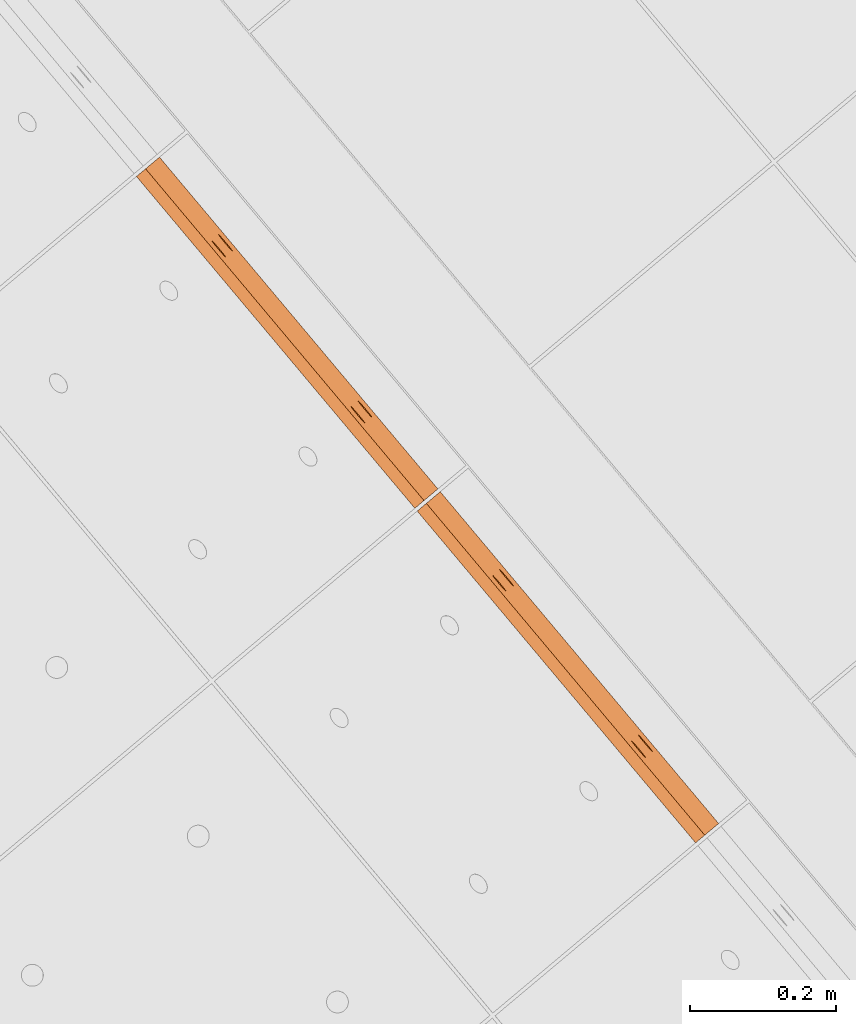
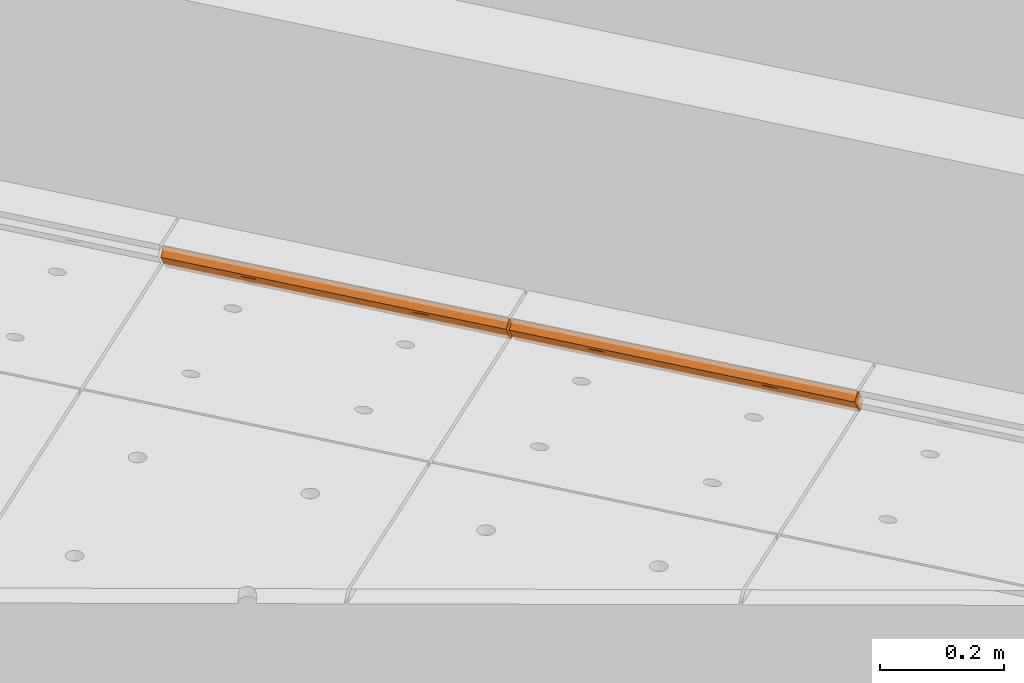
# One storey, part 210 of 338: 2 proxies, 1 element without a shape of its own.
"""IFC2X3 building model written with IfcOpenShell, lengths in millimetres."""

import ifcopenshell
import ifcopenshell.guid

model = None  # the IFC model being written
_history = None  # IfcOwnerHistory: only IFC2X3 demands one
_inside = {}  # id of a spatial element -> (the spatial element, [elements in it])
_under = {}  # id of a project, library or spatial element -> (it, [spatial elements below it])
_declared = {}  # id of a project -> (the project, [libraries it declares])
_typed = {}  # id of a type object -> (the type object, [elements of that type])
_made_of = {}  # id of a material, layer set ... -> (it, [elements and type objects made of it])


def new_model(schema):
    """Start an empty IFC model of exactly this schema.

    Asked for "IFC4X3", IfcOpenShell would pick the latest addendum, in which some entities
    have other attributes; the version numbers below select the first issue.
    IFC2X3 requires an IfcOwnerHistory on every rooted entity: one is made here for all.
    """
    global model, _history
    if schema == "IFC4X3":
        model = ifcopenshell.file(schema_version=(4, 3, 0, 0))
    else:
        model = ifcopenshell.file(schema=schema)
    _inside.clear()
    _under.clear()
    _declared.clear()
    _typed.clear()
    _made_of.clear()
    _history = None
    if model.schema == "IFC2X3":
        org = make("IfcOrganization", Name="unknown")
        user = make(
            "IfcPersonAndOrganization",
            ThePerson=make("IfcPerson", FamilyName="unknown"),
            TheOrganization=org,
        )
        app = make(
            "IfcApplication",
            ApplicationDeveloper=org,
            Version="unknown",
            ApplicationFullName="unknown",
            ApplicationIdentifier="unknown",
        )
        _history = make(
            "IfcOwnerHistory",
            OwningUser=user,
            OwningApplication=app,
            ChangeAction="ADDED",
            CreationDate=0,
        )
    return model


def make(cls, **values):
    """One entity of the class cls with the attributes given. An attribute that is None is left unset."""
    return model.create_entity(
        cls, **{name: value for name, value in values.items() if value is not None}
    )


def entity(cls, *values):
    """Any entity or typed value of the class cls, its attributes in the order of the schema. None: left unset."""
    e = model.create_entity(cls)
    for i, value in enumerate(values):
        if value is not None:
            e[i] = value
    return e


def rooted(cls, **values):
    """An entity with a GlobalId (a new one), such as an element, a storey or a relation."""
    return make(cls, GlobalId=ifcopenshell.guid.new(), OwnerHistory=_history, **values)


def si_unit(unit_type, name, prefix=None):
    """IfcSIUnit, for example si_unit("LENGTHUNIT", "METRE", prefix="MILLI")."""
    return make("IfcSIUnit", UnitType=unit_type, Prefix=prefix, Name=name)


def converted_unit(unit_type, name, factor, base, dimensions=None, offset=None):
    """IfcConversionBasedUnit, such as the inch: factor (a typed value) times the base unit."""
    return make(
        "IfcConversionBasedUnit"
        if offset is None
        else "IfcConversionBasedUnitWithOffset",
        ConversionOffset=offset,
        Dimensions=None
        if dimensions is None
        else entity("IfcDimensionalExponents", *dimensions),
        UnitType=unit_type,
        Name=name,
        ConversionFactor=make(
            "IfcMeasureWithUnit", ValueComponent=factor, UnitComponent=base
        ),
    )


def derived_unit(unit_type, elements):
    """IfcDerivedUnit: a product of units, each with its exponent."""
    return make(
        "IfcDerivedUnit",
        Elements=[
            make("IfcDerivedUnitElement", Unit=unit, Exponent=power)
            for unit, power in elements
        ],
        UnitType=unit_type,
    )


def money_unit(currency):
    """IfcMonetaryUnit."""
    return make("IfcMonetaryUnit", Currency=currency)


def assignment(units):
    """IfcUnitAssignment: the units of a project."""
    return None if units is None else make("IfcUnitAssignment", Units=units)


def point(xyz):
    """IfcCartesianPoint."""
    return None if xyz is None else make("IfcCartesianPoint", Coordinates=xyz)


def direction(xyz):
    """IfcDirection."""
    return None if xyz is None else make("IfcDirection", DirectionRatios=xyz)


def frame(location, z_axis=None, x_axis=None):
    """IfcAxis2Placement3D, a coordinate frame: its origin and axes. An axis left out is left unset."""
    return make(
        "IfcAxis2Placement3D",
        Location=point(location),
        Axis=direction(z_axis),
        RefDirection=direction(x_axis),
    )


def origin_with_axes():
    """The frame at (0, 0, 0) with the z axis (0, 0, 1) and the x axis (1, 0, 0) written out."""
    return frame((0.0, 0.0, 0.0), z_axis=(0.0, 0.0, 1.0), x_axis=(1.0, 0.0, 0.0))


def place(relative_to, where):
    """IfcLocalPlacement: puts the frame where relative to a parent placement (None: the world)."""
    return make(
        "IfcLocalPlacement", PlacementRelTo=relative_to, RelativePlacement=where
    )


def context(
    kind, dimensions, precision=None, world=None, true_north=None, identifier=None
):
    """IfcGeometricRepresentationContext, for example the 3D "Model" context."""
    return make(
        "IfcGeometricRepresentationContext",
        ContextIdentifier=identifier,
        ContextType=kind,
        CoordinateSpaceDimension=dimensions,
        Precision=precision,
        WorldCoordinateSystem=world,
        TrueNorth=true_north,
    )


def subcontext(parent, identifier, kind, view, scale=None):
    """IfcGeometricRepresentationSubContext, for example "Body" below "Model"."""
    return make(
        "IfcGeometricRepresentationSubContext",
        ContextIdentifier=identifier,
        ContextType=kind,
        ParentContext=parent,
        TargetScale=scale,
        TargetView=view,
    )


def project(units=None, contexts=None):
    """IfcProject with its units and contexts."""
    return rooted(
        "IfcProject",
        Name="project",
        RepresentationContexts=contexts,
        UnitsInContext=assignment(units),
    )


def spatial(cls, under=None, at=None, **own):
    """A site, building, storey or space (cls), placed at a placement, below another one or the project."""
    s = rooted(cls, ObjectPlacement=at, **own)
    if under is not None:
        _under.setdefault(under.id(), (under, []))[1].append(s)
    return s


def faces_of(points, faces, orient=None, outer=None):
    """IfcFace entities. A face is a list of loops; a loop is a list of indices into points, from 0.

    orient and outer hold one flag for each loop. By default every Orientation is true, the
    first loop of a face is its IfcFaceOuterBound and the others are IfcFaceBound.
    """
    made = []
    for i, loops in enumerate(faces):
        bounds = []
        for j, loop in enumerate(loops):
            is_outer = j == 0 if outer is None else outer[i][j]
            bounds.append(
                make(
                    "IfcFaceOuterBound" if is_outer else "IfcFaceBound",
                    Bound=make("IfcPolyLoop", Polygon=[points[k] for k in loop]),
                    Orientation=True if orient is None else orient[i][j],
                )
            )
        made.append(make("IfcFace", Bounds=bounds))
    return made


def faceted_brep(points, faces, orient=None, outer=None, voids=None):
    """IfcFacetedBrep: a solid bounded by flat faces; with voids (closed shells), ...WithVoids."""
    shared = [point(p) for p in points]
    hull = make("IfcClosedShell", CfsFaces=faces_of(shared, faces, orient, outer))
    if voids is None:
        return make("IfcFacetedBrep", Outer=hull)
    return make(
        "IfcFacetedBrepWithVoids",
        Outer=hull,
        Voids=[
            make(cls, CfsFaces=faces_of(shared, fs, o, b)) for cls, fs, o, b in voids
        ],
    )


def shape(context_of_items, identifier, shape_type, items):
    """IfcShapeRepresentation: the items that make up one representation, for example the "Body"."""
    return make(
        "IfcShapeRepresentation",
        ContextOfItems=context_of_items,
        RepresentationIdentifier=identifier,
        RepresentationType=shape_type,
        Items=items,
    )


def source(mapping_origin, context_of_items, identifier, shape_type, items):
    """IfcRepresentationMap: a shape defined once, which mapped items show again and again."""
    return make(
        "IfcRepresentationMap",
        MappingOrigin=mapping_origin,
        MappedRepresentation=shape(context_of_items, identifier, shape_type, items),
    )


def transform(
    local_origin,
    x_axis=None,
    y_axis=None,
    z_axis=None,
    scale=None,
    scale2=None,
    scale3=None,
    uniform=True,
):
    """IfcCartesianTransformationOperator3D, or its non-uniform kind. x_axis, y_axis, z_axis: its Axis1, 2, 3."""
    if uniform:
        return make(
            "IfcCartesianTransformationOperator3D",
            Axis1=direction(x_axis),
            Axis2=direction(y_axis),
            LocalOrigin=point(local_origin),
            Scale=scale,
            Axis3=direction(z_axis),
        )
    return make(
        "IfcCartesianTransformationOperator3DnonUniform",
        Axis1=direction(x_axis),
        Axis2=direction(y_axis),
        LocalOrigin=point(local_origin),
        Scale=scale,
        Axis3=direction(z_axis),
        Scale2=scale2,
        Scale3=scale3,
    )


def mapped(mapping_source, mapping_target):
    """IfcMappedItem: shows the shape of a source again, moved by a transform."""
    return make(
        "IfcMappedItem", MappingSource=mapping_source, MappingTarget=mapping_target
    )


def material(Name=None, Category=None):
    """IfcMaterial."""
    return make("IfcMaterial", Name=Name, Category=Category)


def made_of(thing, what):
    """Note that an element or type object is made of a material, layer set ...; save() writes the relation."""
    if what is not None:
        _made_of.setdefault(what.id(), (what, []))[1].append(thing)
    return thing


def type_object(cls, material=None, **own):
    """A type object (cls), such as IfcWallType, which elements share."""
    return made_of(rooted(cls, **own), material)


def type_shapes(of_type, sources):
    """Give a type object the sources (RepresentationMaps) that its elements show as mapped items."""
    of_type.RepresentationMaps = sources


def element(
    cls,
    number,
    at=None,
    inside=None,
    cuts=None,
    type_object=None,
    material=None,
    context=None,
    identifier="Body",
    shape_type=None,
    held_by="IfcProductDefinitionShape",
    body=None,
    shapes=None,
    **own,
):
    """One element of the class cls, such as IfcWall. Its Tag is "e" and its number.

    at: its placement. inside: the storey or other place that contains it. cuts: it is an
    opening in that element (IfcRelVoidsElement). A single representation is given by context,
    identifier, shape_type and body (its items); several are given by shapes. held_by: the class
    of the entity that holds the representations. save() writes the other relations.
    """
    e = rooted(cls, Tag="e%d" % number, ObjectPlacement=at, **own)
    if body is not None:
        shapes = [shape(context, identifier, shape_type, body)]
    if shapes is not None:
        e.Representation = make(held_by, Representations=shapes)
    if inside is not None:
        _inside.setdefault(inside.id(), (inside, []))[1].append(e)
    if cuts is not None:
        rooted(
            "IfcRelVoidsElement", RelatingBuildingElement=cuts, RelatedOpeningElement=e
        )
    if type_object is not None:
        _typed.setdefault(type_object.id(), (type_object, []))[1].append(e)
    return made_of(e, material)


def aggregate(whole, parts):
    """IfcRelAggregates: a whole, such as a stair, and the parts it consists of."""
    return rooted("IfcRelAggregates", RelatingObject=whole, RelatedObjects=parts)


def save(model, path):
    """Write the relations noted so far, then the file.

    IfcRelAggregates (storeys below a building ...), IfcRelContainedInSpatialStructure (elements
    in a storey), IfcRelDefinesByType, IfcRelAssociatesMaterial and IfcRelDeclares: one each for
    every whole, place, type object, material and project.
    """
    for whole, parts in _under.values():
        aggregate(whole, parts)
    for where, things in _inside.values():
        rooted(
            "IfcRelContainedInSpatialStructure",
            RelatedElements=things,
            RelatingStructure=where,
        )
    for kind, things in _typed.values():
        rooted("IfcRelDefinesByType", RelatedObjects=things, RelatingType=kind)
    for what, things in _made_of.values():
        rooted("IfcRelAssociatesMaterial", RelatedObjects=things, RelatingMaterial=what)
    for by, libraries in _declared.values():
        rooted("IfcRelDeclares", RelatingContext=by, RelatedDefinitions=libraries)
    model.write(path)


model = new_model("IFC2X3")

# Units and contexts
model_context = context("Model", 3, precision=0.01, world=origin_with_axes(), true_north=direction((0.0, 1.0)))
plan_context = context("Plan", 3, precision=0.01, world=origin_with_axes(), true_north=direction((0.0, 1.0)))
body_context = subcontext(model_context, "Body", "Model", "MODEL_VIEW")
ifc_project = project(units=[si_unit("LENGTHUNIT", "METRE", prefix="MILLI"), si_unit("AREAUNIT", "SQUARE_METRE"), si_unit("VOLUMEUNIT", "CUBIC_METRE"), converted_unit("PLANEANGLEUNIT", "DEGREE", entity("IfcPlaneAngleMeasure", 0.0174532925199), si_unit("PLANEANGLEUNIT", "RADIAN"), dimensions=[0, 0, 0, 0, 0, 0, 0]), money_unit("EUR"), converted_unit("TIMEUNIT", "Year", entity("IfcTimeMeasure", 31556926.0), si_unit("TIMEUNIT", "SECOND"), dimensions=[0, 0, 1, 0, 0, 0, 0]), si_unit("MASSUNIT", "GRAM", prefix="KILO"), si_unit("THERMODYNAMICTEMPERATUREUNIT", "DEGREE_CELSIUS"), si_unit("LUMINOUSINTENSITYUNIT", "LUMEN"), si_unit("ENERGYUNIT", "JOULE", prefix="MEGA"), derived_unit("THERMALCONDUCTANCEUNIT", [(si_unit("POWERUNIT", "WATT"), 1), (si_unit("LENGTHUNIT", "METRE"), -1), (si_unit("THERMODYNAMICTEMPERATUREUNIT", "KELVIN"), -1)]), derived_unit("SPECIFICHEATCAPACITYUNIT", [(si_unit("ENERGYUNIT", "JOULE"), 1), (si_unit("MASSUNIT", "GRAM", prefix="KILO"), -1), (si_unit("THERMODYNAMICTEMPERATUREUNIT", "KELVIN"), -1)]), derived_unit("MASSDENSITYUNIT", [(si_unit("MASSUNIT", "GRAM", prefix="KILO"), 1), (si_unit("VOLUMEUNIT", "CUBIC_METRE"), -1)])], contexts=[model_context, plan_context])

# Site, building, storey
site_placement = place(None, origin_with_axes())
site = spatial("IfcSite", under=ifc_project, at=site_placement, Name="Fortuinstraat Woensdrecht", CompositionType="ELEMENT")
building_placement = place(site_placement, origin_with_axes())
building = spatial("IfcBuilding", under=site, at=building_placement, Name="IKC Fortuna", CompositionType="ELEMENT")
storey_placement = place(building_placement, origin_with_axes())
storey = spatial("IfcBuildingStorey", under=building, at=storey_placement, Name="00 begane grond", CompositionType="ELEMENT", Elevation=0.0)

# Covering, proxies
covering_type = type_object("IfcCoveringType", Name="Curtain Wall Type", PredefinedType="CEILING")
covering_placement = place(storey_placement, frame((15863.124366, 4456.31398675, 4619.99995334), z_axis=(0.0, 0.0, 1.0), x_axis=(1.0, 0.0, 0.0)))
covering = element("IfcCovering", 1, at=covering_placement, inside=storey, type_object=covering_type, Name="45_Plafondafwerking_P01", PredefinedType="CEILING")
ifc_material = material(Name="Gipsplaat")
building_element_proxy_type = type_object("IfcBuildingElementProxyType", Name="Main Panel 49 x 600 x 20", PredefinedType="NOTDEFINED")
shared_shape = source(origin_with_axes(), body_context, "Body", "Brep", [
    faceted_brep([(2.49999685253, 2.49999999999, -10.0), (24.3452153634, 2.49999999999, -10.0), (24.3452153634, 2.49999999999, 10.0), (2.49999685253, 2.49999999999, 10.0), (2.49999685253, 300.0, -10.0), (2.49999685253, 597.5, -10.0), (24.3452153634, 597.5, -10.0), (46.1904338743, 597.5, -10.0), (46.1904338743, 300.0, -10.0), (46.1904338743, 2.49999999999, -10.0), (14.5240456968, 450.06232995, -10.0), (14.4905790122, 452.64711538, -10.0), (14.4246625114, 455.11348892, -10.0), (14.3282990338, 457.38651108, -10.0), (14.204416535, 459.39711721, -10.0), (14.0567791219, 461.08421608, -10.0), (13.8898726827, 462.39654603, -10.0), (13.7087685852, 463.29423259, -10.0), (13.5189695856, 463.75, -10.0), (13.3262426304, 463.75, -10.0), (13.1364436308, 463.29423259, -10.0), (12.9553395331, 462.39654603, -10.0), (12.788433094, 461.08421608, -10.0), (12.640795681, 459.39711721, -10.0), (12.5169131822, 457.38651108, -10.0), (12.4205497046, 455.11348892, -10.0), (12.3546332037, 452.64711538, -10.0), (12.3211665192, 450.06232995, -10.0), (12.3211665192, 448.75, -10.0), (12.3211665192, 447.43767005, -10.0), (12.3546332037, 444.85288462, -10.0), (12.4205497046, 442.38651108, -10.0), (12.5169131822, 440.11348892, -10.0), (12.640795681, 438.10288279, -10.0), (12.788433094, 436.41578392, -10.0), (12.9553395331, 435.10345397, -10.0), (13.1364436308, 434.20576741, -10.0), (13.3262426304, 433.75, -10.0), (13.5189695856, 433.75, -10.0), (13.7087685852, 434.20576741, -10.0), (13.8898726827, 435.10345397, -10.0), (14.0567791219, 436.41578392, -10.0), (14.204416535, 438.10288279, -10.0), (14.3282990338, 440.11348892, -10.0), (14.4246625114, 442.38651108, -10.0), (14.4905790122, 444.85288462, -10.0), (14.5240456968, 447.43767005, -10.0), (36.3692642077, 450.06232995, -10.0), (36.3357975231, 452.64711538, -10.0), (36.2698810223, 455.11348892, -10.0), (36.1735175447, 457.38651108, -10.0), (36.0496350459, 459.39711721, -10.0), (35.9019976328, 461.08421608, -10.0), (35.7350911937, 462.39654603, -10.0), (35.5539870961, 463.29423259, -10.0), (35.3641880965, 463.75, -10.0), (35.1714611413, 463.75, -10.0), (34.9816621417, 463.29423259, -10.0), (34.800558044, 462.39654603, -10.0), (34.6336516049, 461.08421608, -10.0), (34.4860141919, 459.39711721, -10.0), (34.3621316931, 457.38651108, -10.0), (34.2657682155, 455.11348892, -10.0), (34.1998517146, 452.64711538, -10.0), (34.1663850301, 450.06232995, -10.0), (34.1663850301, 448.75, -10.0), (34.1663850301, 447.43767005, -10.0), (34.1998517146, 444.85288462, -10.0), (34.2657682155, 442.38651108, -10.0), (34.3621316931, 440.11348892, -10.0), (34.4860141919, 438.10288279, -10.0), (34.6336516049, 436.41578392, -10.0), (34.800558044, 435.10345397, -10.0), (34.9816621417, 434.20576741, -10.0), (35.1714611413, 433.75, -10.0), (35.3641880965, 433.75, -10.0), (35.5539870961, 434.20576741, -10.0), (35.7350911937, 435.10345397, -10.0), (35.9019976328, 436.41578392, -10.0), (36.0496350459, 438.10288279, -10.0), (36.1735175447, 440.11348892, -10.0), (36.2698810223, 442.38651108, -10.0), (36.3357975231, 444.85288462, -10.0), (36.3692642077, 447.43767005, -10.0), (36.3692642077, 152.56232995, -10.0), (36.3357975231, 155.14711538, -10.0), (36.2698810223, 157.61348892, -10.0), (36.1735175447, 159.88651108, -10.0), (36.0496350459, 161.89711721, -10.0), (35.9019976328, 163.58421608, -10.0), (35.7350911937, 164.89654603, -10.0), (35.5539870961, 165.79423259, -10.0), (35.3641880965, 166.25, -10.0), (35.1714611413, 166.25, -10.0), (34.9816621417, 165.79423259, -10.0), (34.800558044, 164.89654603, -10.0), (34.6336516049, 163.58421608, -10.0), (34.4860141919, 161.89711721, -10.0), (34.3621316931, 159.88651108, -10.0), (34.2657682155, 157.61348892, -10.0), (34.1998517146, 155.14711538, -10.0), (34.1663850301, 152.56232995, -10.0), (34.1663850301, 151.25, -10.0), (34.1663850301, 149.93767005, -10.0), (34.1998517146, 147.35288462, -10.0), (34.2657682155, 144.88651108, -10.0), (34.3621316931, 142.61348892, -10.0), (34.4860141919, 140.60288279, -10.0), (34.6336516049, 138.91578392, -10.0), (34.800558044, 137.60345397, -10.0), (34.9816621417, 136.70576741, -10.0), (35.1714611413, 136.25, -10.0), (35.3641880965, 136.25, -10.0), (35.5539870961, 136.70576741, -10.0), (35.7350911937, 137.60345397, -10.0), (35.9019976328, 138.91578392, -10.0), (36.0496350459, 140.60288279, -10.0), (36.1735175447, 142.61348892, -10.0), (36.2698810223, 144.88651108, -10.0), (36.3357975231, 147.35288462, -10.0), (36.3692642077, 149.93767005, -10.0), (14.5240456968, 152.56232995, -10.0), (14.4905790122, 155.14711538, -10.0), (14.4246625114, 157.61348892, -10.0), (14.3282990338, 159.88651108, -10.0), (14.204416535, 161.89711721, -10.0), (14.0567791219, 163.58421608, -10.0), (13.8898726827, 164.89654603, -10.0), (13.7087685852, 165.79423259, -10.0), (13.5189695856, 166.25, -10.0), (13.3262426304, 166.25, -10.0), (13.1364436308, 165.79423259, -10.0), (12.9553395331, 164.89654603, -10.0), (12.788433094, 163.58421608, -10.0), (12.640795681, 161.89711721, -10.0), (12.5169131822, 159.88651108, -10.0), (12.4205497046, 157.61348892, -10.0), (12.3546332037, 155.14711538, -10.0), (12.3211665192, 152.56232995, -10.0), (12.3211665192, 151.25, -10.0), (12.3211665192, 149.93767005, -10.0), (12.3546332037, 147.35288462, -10.0), (12.4205497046, 144.88651108, -10.0), (12.5169131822, 142.61348892, -10.0), (12.640795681, 140.60288279, -10.0), (12.788433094, 138.91578392, -10.0), (12.9553395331, 137.60345397, -10.0), (13.1364436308, 136.70576741, -10.0), (13.3262426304, 136.25, -10.0), (13.5189695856, 136.25, -10.0), (13.7087685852, 136.70576741, -10.0), (13.8898726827, 137.60345397, -10.0), (14.0567791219, 138.91578392, -10.0), (14.204416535, 140.60288279, -10.0), (14.3282990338, 142.61348892, -10.0), (14.4246625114, 144.88651108, -10.0), (14.4905790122, 147.35288462, -10.0), (14.5240456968, 149.93767005, -10.0), (46.1904338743, 2.49999999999, 10.0), (46.1904338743, 300.0, 10.0), (46.1904338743, 597.5, 10.0), (24.3452153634, 597.5, 10.0), (2.49999685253, 597.5, 10.0), (2.49999685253, 300.0, 10.0), (14.5240456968, 450.06232995, 10.0), (14.5240456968, 447.43767005, 10.0), (14.4905790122, 444.85288462, 10.0), (14.4246625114, 442.38651108, 10.0), (14.3282990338, 440.11348892, 10.0), (14.204416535, 438.10288279, 10.0), (14.0567791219, 436.41578392, 10.0), (13.8898726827, 435.10345397, 10.0), (13.7087685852, 434.20576741, 10.0), (13.5189695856, 433.75, 10.0), (13.3262426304, 433.75, 10.0), (13.1364436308, 434.20576741, 10.0), (12.9553395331, 435.10345397, 10.0), (12.788433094, 436.41578392, 10.0), (12.640795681, 438.10288279, 10.0), (12.5169131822, 440.11348892, 10.0), (12.4205497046, 442.38651108, 10.0), (12.3546332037, 444.85288462, 10.0), (12.3211665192, 447.43767005, 10.0), (12.3211665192, 448.75, 10.0), (12.3211665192, 450.06232995, 10.0), (12.3546332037, 452.64711538, 10.0), (12.4205497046, 455.11348892, 10.0), (12.5169131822, 457.38651108, 10.0), (12.640795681, 459.39711721, 10.0), (12.788433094, 461.08421608, 10.0), (12.9553395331, 462.39654603, 10.0), (13.1364436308, 463.29423259, 10.0), (13.3262426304, 463.75, 10.0), (13.5189695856, 463.75, 10.0), (13.7087685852, 463.29423259, 10.0), (13.8898726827, 462.39654603, 10.0), (14.0567791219, 461.08421608, 10.0), (14.204416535, 459.39711721, 10.0), (14.3282990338, 457.38651108, 10.0), (14.4246625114, 455.11348892, 10.0), (14.4905790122, 452.64711538, 10.0), (36.3692642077, 450.06232995, 10.0), (36.3692642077, 447.43767005, 10.0), (36.3357975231, 444.85288462, 10.0), (36.2698810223, 442.38651108, 10.0), (36.1735175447, 440.11348892, 10.0), (36.0496350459, 438.10288279, 10.0), (35.9019976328, 436.41578392, 10.0), (35.7350911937, 435.10345397, 10.0), (35.5539870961, 434.20576741, 10.0), (35.3641880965, 433.75, 10.0), (35.1714611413, 433.75, 10.0), (34.9816621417, 434.20576741, 10.0), (34.800558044, 435.10345397, 10.0), (34.6336516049, 436.41578392, 10.0), (34.4860141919, 438.10288279, 10.0), (34.3621316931, 440.11348892, 10.0), (34.2657682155, 442.38651108, 10.0), (34.1998517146, 444.85288462, 10.0), (34.1663850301, 447.43767005, 10.0), (34.1663850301, 448.75, 10.0), (34.1663850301, 450.06232995, 10.0), (34.1998517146, 452.64711538, 10.0), (34.2657682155, 455.11348892, 10.0), (34.3621316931, 457.38651108, 10.0), (34.4860141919, 459.39711721, 10.0), (34.6336516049, 461.08421608, 10.0), (34.800558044, 462.39654603, 10.0), (34.9816621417, 463.29423259, 10.0), (35.1714611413, 463.75, 10.0), (35.3641880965, 463.75, 10.0), (35.5539870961, 463.29423259, 10.0), (35.7350911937, 462.39654603, 10.0), (35.9019976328, 461.08421608, 10.0), (36.0496350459, 459.39711721, 10.0), (36.1735175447, 457.38651108, 10.0), (36.2698810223, 455.11348892, 10.0), (36.3357975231, 452.64711538, 10.0), (36.3692642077, 152.56232995, 10.0), (36.3692642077, 149.93767005, 10.0), (36.3357975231, 147.35288462, 10.0), (36.2698810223, 144.88651108, 10.0), (36.1735175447, 142.61348892, 10.0), (36.0496350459, 140.60288279, 10.0), (35.9019976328, 138.91578392, 10.0), (35.7350911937, 137.60345397, 10.0), (35.5539870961, 136.70576741, 10.0), (35.3641880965, 136.25, 10.0), (35.1714611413, 136.25, 10.0), (34.9816621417, 136.70576741, 10.0), (34.800558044, 137.60345397, 10.0), (34.6336516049, 138.91578392, 10.0), (34.4860141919, 140.60288279, 10.0), (34.3621316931, 142.61348892, 10.0), (34.2657682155, 144.88651108, 10.0), (34.1998517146, 147.35288462, 10.0), (34.1663850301, 149.93767005, 10.0), (34.1663850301, 151.25, 10.0), (34.1663850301, 152.56232995, 10.0), (34.1998517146, 155.14711538, 10.0), (34.2657682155, 157.61348892, 10.0), (34.3621316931, 159.88651108, 10.0), (34.4860141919, 161.89711721, 10.0), (34.6336516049, 163.58421608, 10.0), (34.800558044, 164.89654603, 10.0), (34.9816621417, 165.79423259, 10.0), (35.1714611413, 166.25, 10.0), (35.3641880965, 166.25, 10.0), (35.5539870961, 165.79423259, 10.0), (35.7350911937, 164.89654603, 10.0), (35.9019976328, 163.58421608, 10.0), (36.0496350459, 161.89711721, 10.0), (36.1735175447, 159.88651108, 10.0), (36.2698810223, 157.61348892, 10.0), (36.3357975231, 155.14711538, 10.0), (14.5240456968, 152.56232995, 10.0), (14.5240456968, 149.93767005, 10.0), (14.4905790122, 147.35288462, 10.0), (14.4246625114, 144.88651108, 10.0), (14.3282990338, 142.61348892, 10.0), (14.204416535, 140.60288279, 10.0), (14.0567791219, 138.91578392, 10.0), (13.8898726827, 137.60345397, 10.0), (13.7087685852, 136.70576741, 10.0), (13.5189695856, 136.25, 10.0), (13.3262426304, 136.25, 10.0), (13.1364436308, 136.70576741, 10.0), (12.9553395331, 137.60345397, 10.0), (12.788433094, 138.91578392, 10.0), (12.640795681, 140.60288279, 10.0), (12.5169131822, 142.61348892, 10.0), (12.4205497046, 144.88651108, 10.0), (12.3546332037, 147.35288462, 10.0), (12.3211665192, 149.93767005, 10.0), (12.3211665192, 151.25, 10.0), (12.3211665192, 152.56232995, 10.0), (12.3546332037, 155.14711538, 10.0), (12.4205497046, 157.61348892, 10.0), (12.5169131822, 159.88651108, 10.0), (12.640795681, 161.89711721, 10.0), (12.788433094, 163.58421608, 10.0), (12.9553395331, 164.89654603, 10.0), (13.1364436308, 165.79423259, 10.0), (13.3262426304, 166.25, 10.0), (13.5189695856, 166.25, 10.0), (13.7087685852, 165.79423259, 10.0), (13.8898726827, 164.89654603, 10.0), (14.0567791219, 163.58421608, 10.0), (14.204416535, 161.89711721, 10.0), (14.3282990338, 159.88651108, 10.0), (14.4246625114, 157.61348892, 10.0), (14.4905790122, 155.14711538, 10.0)], [[[0, 1, 2, 3]], [[0, 4, 5, 6, 7, 8, 9, 1], [10, 11, 12, 13, 14, 15, 16, 17, 18, 19, 20, 21, 22, 23, 24, 25, 26, 27, 28, 29, 30, 31, 32, 33, 34, 35, 36, 37, 38, 39, 40, 41, 42, 43, 44, 45, 46], [47, 48, 49, 50, 51, 52, 53, 54, 55, 56, 57, 58, 59, 60, 61, 62, 63, 64, 65, 66, 67, 68, 69, 70, 71, 72, 73, 74, 75, 76, 77, 78, 79, 80, 81, 82, 83], [84, 85, 86, 87, 88, 89, 90, 91, 92, 93, 94, 95, 96, 97, 98, 99, 100, 101, 102, 103, 104, 105, 106, 107, 108, 109, 110, 111, 112, 113, 114, 115, 116, 117, 118, 119, 120], [121, 122, 123, 124, 125, 126, 127, 128, 129, 130, 131, 132, 133, 134, 135, 136, 137, 138, 139, 140, 141, 142, 143, 144, 145, 146, 147, 148, 149, 150, 151, 152, 153, 154, 155, 156, 157]], [[1, 9, 158, 2]], [[3, 2, 158, 159, 160, 161, 162, 163], [164, 165, 166, 167, 168, 169, 170, 171, 172, 173, 174, 175, 176, 177, 178, 179, 180, 181, 182, 183, 184, 185, 186, 187, 188, 189, 190, 191, 192, 193, 194, 195, 196, 197, 198, 199, 200], [201, 202, 203, 204, 205, 206, 207, 208, 209, 210, 211, 212, 213, 214, 215, 216, 217, 218, 219, 220, 221, 222, 223, 224, 225, 226, 227, 228, 229, 230, 231, 232, 233, 234, 235, 236, 237], [238, 239, 240, 241, 242, 243, 244, 245, 246, 247, 248, 249, 250, 251, 252, 253, 254, 255, 256, 257, 258, 259, 260, 261, 262, 263, 264, 265, 266, 267, 268, 269, 270, 271, 272, 273, 274], [275, 276, 277, 278, 279, 280, 281, 282, 283, 284, 285, 286, 287, 288, 289, 290, 291, 292, 293, 294, 295, 296, 297, 298, 299, 300, 301, 302, 303, 304, 305, 306, 307, 308, 309, 310, 311]], [[4, 0, 3, 163]], [[5, 4, 163, 162]], [[6, 5, 162, 161]], [[7, 6, 161, 160]], [[8, 7, 160, 159]], [[9, 8, 159, 158]], [[11, 10, 164, 200]], [[12, 11, 200, 199]], [[13, 12, 199, 198]], [[14, 13, 198, 197]], [[15, 14, 197, 196]], [[16, 15, 196, 195]], [[17, 16, 195, 194]], [[18, 17, 194, 193]], [[19, 18, 193, 192]], [[20, 19, 192, 191]], [[21, 20, 191, 190]], [[22, 21, 190, 189]], [[23, 22, 189, 188]], [[24, 23, 188, 187]], [[25, 24, 187, 186]], [[26, 25, 186, 185]], [[27, 26, 185, 184]], [[28, 27, 184, 183]], [[29, 28, 183, 182]], [[30, 29, 182, 181]], [[31, 30, 181, 180]], [[32, 31, 180, 179]], [[33, 32, 179, 178]], [[34, 33, 178, 177]], [[35, 34, 177, 176]], [[36, 35, 176, 175]], [[37, 36, 175, 174]], [[38, 37, 174, 173]], [[39, 38, 173, 172]], [[40, 39, 172, 171]], [[41, 40, 171, 170]], [[42, 41, 170, 169]], [[43, 42, 169, 168]], [[44, 43, 168, 167]], [[45, 44, 167, 166]], [[46, 45, 166, 165]], [[10, 46, 165, 164]], [[48, 47, 201, 237]], [[49, 48, 237, 236]], [[50, 49, 236, 235]], [[51, 50, 235, 234]], [[52, 51, 234, 233]], [[53, 52, 233, 232]], [[54, 53, 232, 231]], [[55, 54, 231, 230]], [[56, 55, 230, 229]], [[57, 56, 229, 228]], [[58, 57, 228, 227]], [[59, 58, 227, 226]], [[60, 59, 226, 225]], [[61, 60, 225, 224]], [[62, 61, 224, 223]], [[63, 62, 223, 222]], [[64, 63, 222, 221]], [[65, 64, 221, 220]], [[66, 65, 220, 219]], [[67, 66, 219, 218]], [[68, 67, 218, 217]], [[69, 68, 217, 216]], [[70, 69, 216, 215]], [[71, 70, 215, 214]], [[72, 71, 214, 213]], [[73, 72, 213, 212]], [[74, 73, 212, 211]], [[75, 74, 211, 210]], [[76, 75, 210, 209]], [[77, 76, 209, 208]], [[78, 77, 208, 207]], [[79, 78, 207, 206]], [[80, 79, 206, 205]], [[81, 80, 205, 204]], [[82, 81, 204, 203]], [[83, 82, 203, 202]], [[47, 83, 202, 201]], [[85, 84, 238, 274]], [[86, 85, 274, 273]], [[87, 86, 273, 272]], [[88, 87, 272, 271]], [[89, 88, 271, 270]], [[90, 89, 270, 269]], [[91, 90, 269, 268]], [[92, 91, 268, 267]], [[93, 92, 267, 266]], [[94, 93, 266, 265]], [[95, 94, 265, 264]], [[96, 95, 264, 263]], [[97, 96, 263, 262]], [[98, 97, 262, 261]], [[99, 98, 261, 260]], [[100, 99, 260, 259]], [[101, 100, 259, 258]], [[102, 101, 258, 257]], [[103, 102, 257, 256]], [[104, 103, 256, 255]], [[105, 104, 255, 254]], [[106, 105, 254, 253]], [[107, 106, 253, 252]], [[108, 107, 252, 251]], [[109, 108, 251, 250]], [[110, 109, 250, 249]], [[111, 110, 249, 248]], [[112, 111, 248, 247]], [[113, 112, 247, 246]], [[114, 113, 246, 245]], [[115, 114, 245, 244]], [[116, 115, 244, 243]], [[117, 116, 243, 242]], [[118, 117, 242, 241]], [[119, 118, 241, 240]], [[120, 119, 240, 239]], [[84, 120, 239, 238]], [[122, 121, 275, 311]], [[123, 122, 311, 310]], [[124, 123, 310, 309]], [[125, 124, 309, 308]], [[126, 125, 308, 307]], [[127, 126, 307, 306]], [[128, 127, 306, 305]], [[129, 128, 305, 304]], [[130, 129, 304, 303]], [[131, 130, 303, 302]], [[132, 131, 302, 301]], [[133, 132, 301, 300]], [[134, 133, 300, 299]], [[135, 134, 299, 298]], [[136, 135, 298, 297]], [[137, 136, 297, 296]], [[138, 137, 296, 295]], [[139, 138, 295, 294]], [[140, 139, 294, 293]], [[141, 140, 293, 292]], [[142, 141, 292, 291]], [[143, 142, 291, 290]], [[144, 143, 290, 289]], [[145, 144, 289, 288]], [[146, 145, 288, 287]], [[147, 146, 287, 286]], [[148, 147, 286, 285]], [[149, 148, 285, 284]], [[150, 149, 284, 283]], [[151, 150, 283, 282]], [[152, 151, 282, 281]], [[153, 152, 281, 280]], [[154, 153, 280, 279]], [[155, 154, 279, 278]], [[156, 155, 278, 277]], [[157, 156, 277, 276]], [[121, 157, 276, 275]]]),
])
type_shapes(building_element_proxy_type, [shared_shape])
proxy_1_placement = place(covering_placement, frame((-3321.16009893, 3911.64605822, 20.0000466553), z_axis=(0.0, 0.0, 1.0), x_axis=(-0.642787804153, 0.766044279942, 0.0)))
proxy_1 = element("IfcBuildingElementProxy", 2, at=proxy_1_placement, type_object=building_element_proxy_type, material=ifc_material, Name="__600x788 Rockfon Krios", context=body_context, shape_type="MappedRepresentation", body=[
    mapped(shared_shape, transform((300.0, 13.8812675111, 20.0), x_axis=(0.0, -0.570184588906, -0.82151660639), y_axis=(-1.0, 0.0, 0.0), z_axis=(0.0, 0.82151660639, -0.570184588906))),
])
proxy_2_placement = place(covering_placement, frame((-2935.48741644, 3452.01949026, 20.0000466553), z_axis=(0.0, 0.0, 1.0), x_axis=(-0.642787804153, 0.766044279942, 0.0)))
proxy_2 = element("IfcBuildingElementProxy", 3, at=proxy_2_placement, type_object=building_element_proxy_type, material=ifc_material, Name="__600x801 Rockfon Krios", context=body_context, shape_type="MappedRepresentation", body=[
    mapped(shared_shape, transform((300.0, 13.8812675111, 20.0), x_axis=(0.0, -0.570184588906, -0.821516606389), y_axis=(-1.0, 0.0, 0.0), z_axis=(0.0, 0.821516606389, -0.570184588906))),
])
aggregate(covering, [proxy_1, proxy_2])

save(model, "model.ifc")
